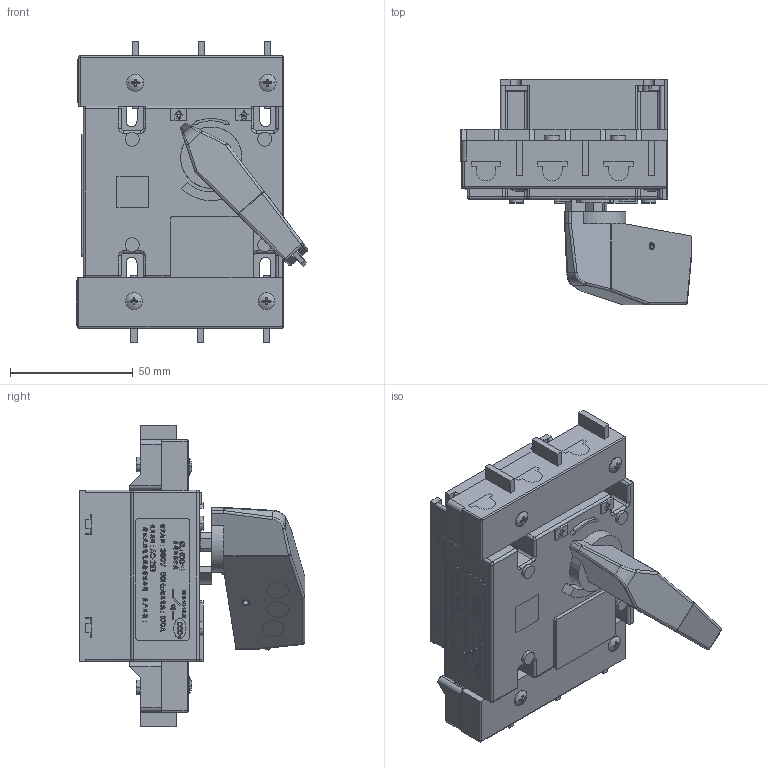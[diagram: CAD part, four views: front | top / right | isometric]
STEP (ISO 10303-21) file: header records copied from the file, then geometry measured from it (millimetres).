
FILE_DESCRIPTION((''),'2;1');
FILE_NAME('GL-1003P4P','2026-04-01T13:40:48',('panxiangxiang'),(''),'CREO PARAMETRIC BY PTC INC, 2020354','CREO PARAMETRIC BY PTC INC, 2020354','');
FILE_SCHEMA(('CONFIG_CONTROL_DESIGN'));
Products named in the file (1): GL-1003P4P
Bounding box: 94.29 x 92 x 123 mm (x, y, z)
Volume: 166662.2 mm3; surface area: 114702.1 mm2
Topology: 1 solids, 3 shells, 5754 faces, 16393 edges, 10794 vertices
Faces by surface type: plane 5198, cylinder 416, sphere 61, cone 37, torus 24, bspline 18
Entity records: 185034 total; most frequent: CARTESIAN_POINT 34739, ORIENTED_EDGE 32656, DIRECTION 28717, EDGE_CURVE 16328, VECTOR 14859, LINE 14859, VERTEX_POINT 10794, AXIS2_PLACEMENT_3D 6929
